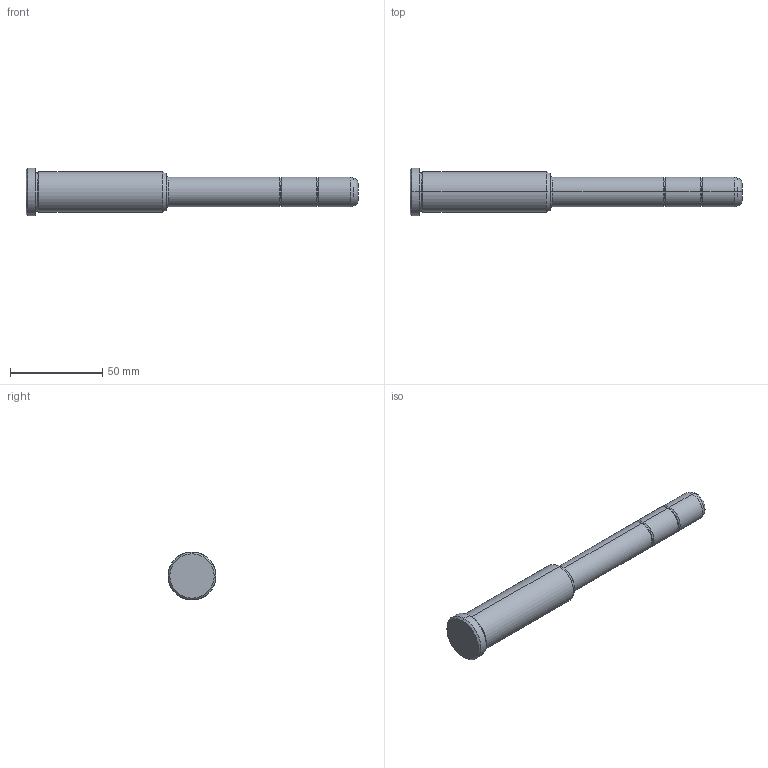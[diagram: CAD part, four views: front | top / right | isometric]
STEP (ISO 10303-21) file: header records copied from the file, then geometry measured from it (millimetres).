
FILE_DESCRIPTION(('CATIA V5 STEP Exchange'),'2;1');
FILE_NAME('C:\Users\Utente\Desktop\IO LAVORO\3D X SITO CF\X SITO\PLASTICA\351\351-16X76X180.stp','2021-08-18T12:46:31+00:00',('none'),('none'),'CATIA Version 5 Release 20 GA (IN-10)','CATIA V5 STEP AP203','none');
FILE_SCHEMA(('CONFIG_CONTROL_DESIGN'));
Length unit declared in the file: millimetre
Products named in the file (1): 351-16X76X180
Bounding box: 180 x 26 x 26 mm (x, y, z)
Volume: 50215.1 mm3; surface area: 11426.4 mm2
Topology: 1 solids, 1 shells, 36 faces, 102 edges, 70 vertices
Faces by surface type: torus 16, cylinder 10, cone 6, plane 4
Entity records: 1292 total; most frequent: CARTESIAN_POINT 321, ORIENTED_EDGE 204, DIRECTION 166, AXIS2_PLACEMENT_3D 115, EDGE_CURVE 102, CIRCLE 78, VERTEX_POINT 70, EDGE_LOOP 38
